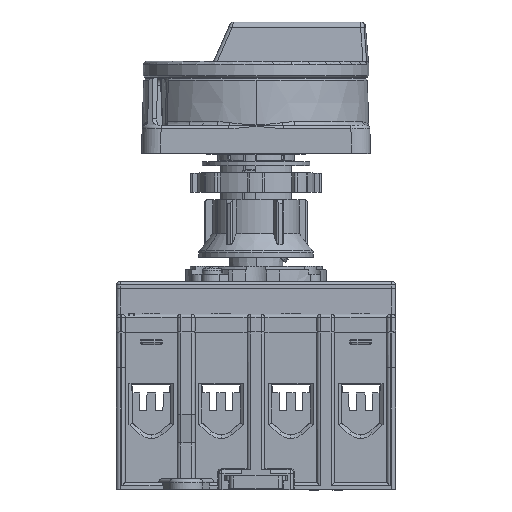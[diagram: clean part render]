
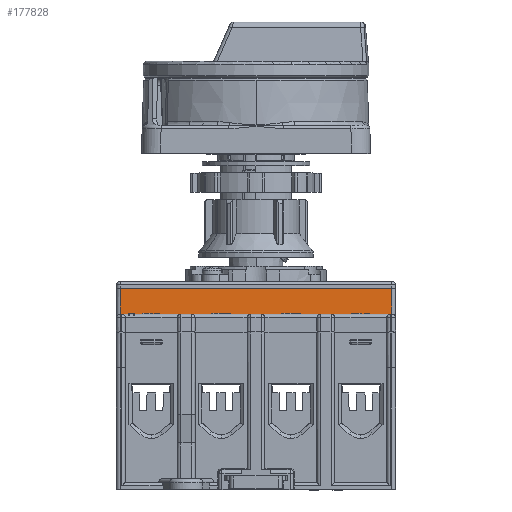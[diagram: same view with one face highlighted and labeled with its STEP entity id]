
A CAD part, top view. The second image highlights one B-rep face of the part: STEP entity #177828.
In plain terms, the highlighted planar face has unit normal (0, 0.018, 1).
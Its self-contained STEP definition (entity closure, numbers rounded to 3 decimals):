
#416 = EDGE_CURVE ( 'NONE', #44441, #133880, #132196, .T. ) ;
#19453 = LINE ( 'NONE', #130322, #134571 ) ;
#22129 = CARTESIAN_POINT ( 'NONE',  ( 0., 15.3, 21.62 ) ) ;
#26448 = VERTEX_POINT ( 'NONE', #61750 ) ;
#31793 = PLANE ( 'NONE',  #200772 ) ;
#33835 = CARTESIAN_POINT ( 'NONE',  ( 38., 15., 21.626 ) ) ;
#34393 = DIRECTION ( 'NONE',  ( 0., 1., -0.017 ) ) ;
#40891 = EDGE_CURVE ( 'NONE', #154475, #106022, #51761, .T. ) ;
#43927 = ORIENTED_EDGE ( 'NONE', *, *, #196778, .T. ) ;
#44226 = ORIENTED_EDGE ( 'NONE', *, *, #40891, .T. ) ;
#44441 = VERTEX_POINT ( 'NONE', #201128 ) ;
#47943 = VERTEX_POINT ( 'NONE', #109860 ) ;
#51761 = LINE ( 'NONE', #174243, #93422 ) ;
#55522 = VECTOR ( 'NONE', #183176, 1000. ) ;
#57127 = ORIENTED_EDGE ( 'NONE', *, *, #198386, .F. ) ;
#59893 = LINE ( 'NONE', #158794, #64783 ) ;
#61750 = CARTESIAN_POINT ( 'NONE',  ( -34.2, 15.3, 21.62 ) ) ;
#64783 = VECTOR ( 'NONE', #65068, 1000. ) ;
#64784 = DIRECTION ( 'NONE',  ( 1., 0., 0. ) ) ;
#65068 = DIRECTION ( 'NONE',  ( 0., -1., 0.017 ) ) ;
#67292 = LINE ( 'NONE', #22129, #104059 ) ;
#67513 = ORIENTED_EDGE ( 'NONE', *, *, #183930, .T. ) ;
#69504 = EDGE_CURVE ( 'NONE', #106022, #77070, #200048, .T. ) ;
#76513 = LINE ( 'NONE', #112988, #154842 ) ;
#77070 = VERTEX_POINT ( 'NONE', #202595 ) ;
#79732 = DIRECTION ( 'NONE',  ( 0., -1., 0.017 ) ) ;
#81842 = EDGE_CURVE ( 'NONE', #77070, #26448, #67292, .T. ) ;
#87617 = ORIENTED_EDGE ( 'NONE', *, *, #416, .F. ) ;
#88102 = ORIENTED_EDGE ( 'NONE', *, *, #153511, .T. ) ;
#90576 = EDGE_LOOP ( 'NONE', ( #88102, #43927, #87617, #57127, #67513, #44226, #105715, #183214 ) ) ;
#93422 = VECTOR ( 'NONE', #64784, 1000. ) ;
#94830 = CARTESIAN_POINT ( 'NONE',  ( 0., 22.2, 21.5 ) ) ;
#104059 = VECTOR ( 'NONE', #147325, 1000. ) ;
#104079 = CARTESIAN_POINT ( 'NONE',  ( 38., 16.134, 21.606 ) ) ;
#105715 = ORIENTED_EDGE ( 'NONE', *, *, #69504, .T. ) ;
#106022 = VERTEX_POINT ( 'NONE', #123482 ) ;
#109860 = CARTESIAN_POINT ( 'NONE',  ( -38., 22.2, 21.5 ) ) ;
#112988 = CARTESIAN_POINT ( 'NONE',  ( -34.2, 22.2, 21.5 ) ) ;
#118828 = CARTESIAN_POINT ( 'NONE',  ( -34.2, 15., 21.626 ) ) ;
#122971 = FACE_OUTER_BOUND ( 'NONE', #90576, .T. ) ;
#123482 = CARTESIAN_POINT ( 'NONE',  ( -35.5, 15., 21.626 ) ) ;
#128829 = DIRECTION ( 'NONE',  ( 0., -1., 0.017 ) ) ;
#130322 = CARTESIAN_POINT ( 'NONE',  ( 0., 15., 21.626 ) ) ;
#132196 = LINE ( 'NONE', #104079, #173626 ) ;
#133880 = VERTEX_POINT ( 'NONE', #33835 ) ;
#134571 = VECTOR ( 'NONE', #192376, 1000. ) ;
#135615 = DIRECTION ( 'NONE',  ( 0., -1., 0.017 ) ) ;
#147325 = DIRECTION ( 'NONE',  ( 1., 0., 0. ) ) ;
#153511 = EDGE_CURVE ( 'NONE', #26448, #190770, #76513, .T. ) ;
#154475 = VERTEX_POINT ( 'NONE', #174880 ) ;
#154842 = VECTOR ( 'NONE', #128829, 1000. ) ;
#158396 = VECTOR ( 'NONE', #34393, 1000. ) ;
#158794 = CARTESIAN_POINT ( 'NONE',  ( -38., 22.2, 21.5 ) ) ;
#167494 = CARTESIAN_POINT ( 'NONE',  ( 0., 22.2, 21.5 ) ) ;
#173433 = DIRECTION ( 'NONE',  ( 0., 0.017, 1. ) ) ;
#173626 = VECTOR ( 'NONE', #135615, 1000. ) ;
#174243 = CARTESIAN_POINT ( 'NONE',  ( 0., 15., 21.626 ) ) ;
#174880 = CARTESIAN_POINT ( 'NONE',  ( -38., 15., 21.626 ) ) ;
#175474 = LINE ( 'NONE', #167494, #55522 ) ;
#177828 = ADVANCED_FACE ( 'NONE', ( #122971 ), #31793, .T. ) ;
#183176 = DIRECTION ( 'NONE',  ( 1., 0., 0. ) ) ;
#183214 = ORIENTED_EDGE ( 'NONE', *, *, #81842, .T. ) ;
#183930 = EDGE_CURVE ( 'NONE', #47943, #154475, #59893, .T. ) ;
#190357 = CARTESIAN_POINT ( 'NONE',  ( -35.5, 22.2, 21.5 ) ) ;
#190770 = VERTEX_POINT ( 'NONE', #118828 ) ;
#192376 = DIRECTION ( 'NONE',  ( 1., 0., 0. ) ) ;
#196778 = EDGE_CURVE ( 'NONE', #190770, #133880, #19453, .T. ) ;
#198386 = EDGE_CURVE ( 'NONE', #47943, #44441, #175474, .T. ) ;
#200048 = LINE ( 'NONE', #190357, #158396 ) ;
#200772 = AXIS2_PLACEMENT_3D ( 'NONE', #94830, #173433, #79732 ) ;
#201128 = CARTESIAN_POINT ( 'NONE',  ( 38., 22.2, 21.5 ) ) ;
#202595 = CARTESIAN_POINT ( 'NONE',  ( -35.5, 15.3, 21.62 ) ) ;
